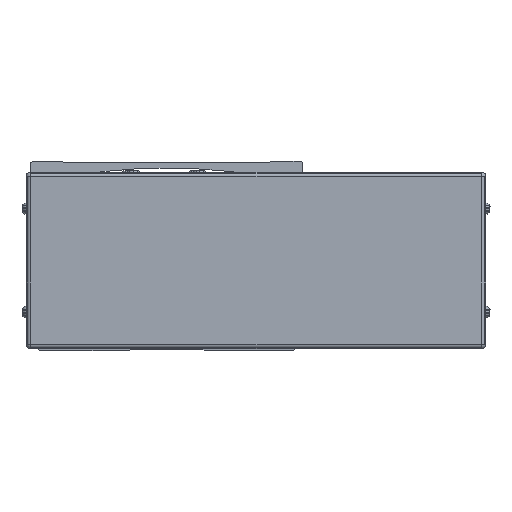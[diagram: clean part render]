
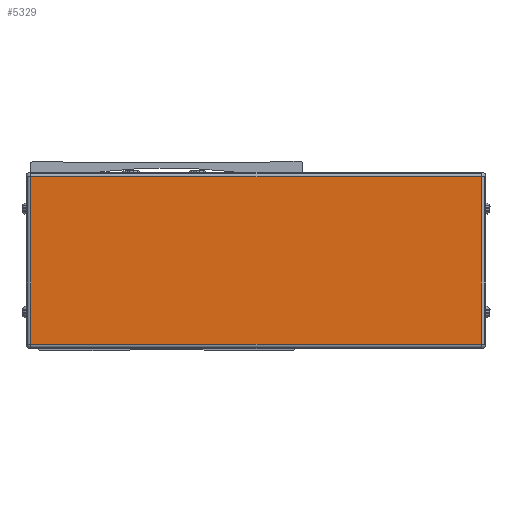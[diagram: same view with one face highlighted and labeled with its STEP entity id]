
A CAD part, front view. The second image highlights one B-rep face of the part: STEP entity #5329.
In plain terms, the highlighted planar face has unit normal (0, -1, 0).
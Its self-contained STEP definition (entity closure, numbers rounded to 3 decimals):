
#5329=ADVANCED_FACE('',(#11835),#11836,.T.);
#11835=FACE_OUTER_BOUND('',#20675,.T.);
#11836=PLANE('',#20676);
#20675=EDGE_LOOP('',(#36672,#36673,#36674,#36675));
#20676=AXIS2_PLACEMENT_3D('',#36676,#36677,#36678);
#36672=ORIENTED_EDGE('',*,*,#52238,.F.);
#36673=ORIENTED_EDGE('',*,*,#51277,.F.);
#36674=ORIENTED_EDGE('',*,*,#52653,.F.);
#36675=ORIENTED_EDGE('',*,*,#54000,.F.);
#36676=CARTESIAN_POINT('',(-259.5,-313.778,-8.));
#36677=DIRECTION('',(0.,-1.0,0.));
#36678=DIRECTION('',(1.0,0.,0.));
#51277=EDGE_CURVE('',#62635,#60705,#62637,.T.);
#52238=EDGE_CURVE('',#60705,#64111,#64112,.T.);
#52653=EDGE_CURVE('',#59852,#62635,#64722,.T.);
#54000=EDGE_CURVE('',#64111,#59852,#66681,.T.);
#59852=VERTEX_POINT('',#74358);
#60705=VERTEX_POINT('',#75616);
#62635=VERTEX_POINT('',#78454);
#62637=LINE('',#78456,#78457);
#64111=VERTEX_POINT('',#80496);
#64112=LINE('',#80497,#80498);
#64722=LINE('',#81358,#81359);
#66681=LINE('',#84251,#84252);
#74358=CARTESIAN_POINT('',(-361.7,-313.778,-46.));
#75616=CARTESIAN_POINT('',(-157.3,-313.778,30.));
#78454=CARTESIAN_POINT('',(-361.7,-313.778,30.));
#78456=CARTESIAN_POINT('',(-259.5,-313.778,30.));
#78457=VECTOR('',#93265,10.0);
#80496=CARTESIAN_POINT('',(-157.3,-313.778,-46.));
#80497=CARTESIAN_POINT('',(-157.3,-313.778,-8.));
#80498=VECTOR('',#94567,10.0);
#81358=CARTESIAN_POINT('',(-361.7,-313.778,-8.));
#81359=VECTOR('',#95067,10.0);
#84251=CARTESIAN_POINT('',(-259.5,-313.778,-46.));
#84252=VECTOR('',#96647,10.0);
#93265=DIRECTION('',(1.0,0.,0.));
#94567=DIRECTION('',(0.0,0.,-1.0));
#95067=DIRECTION('',(0.0,0.,1.0));
#96647=DIRECTION('',(-1.0,0.,0.));
